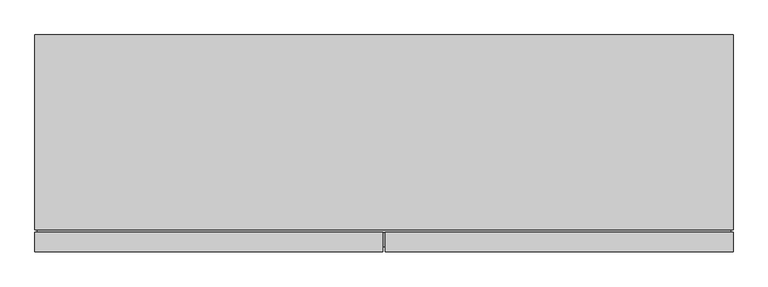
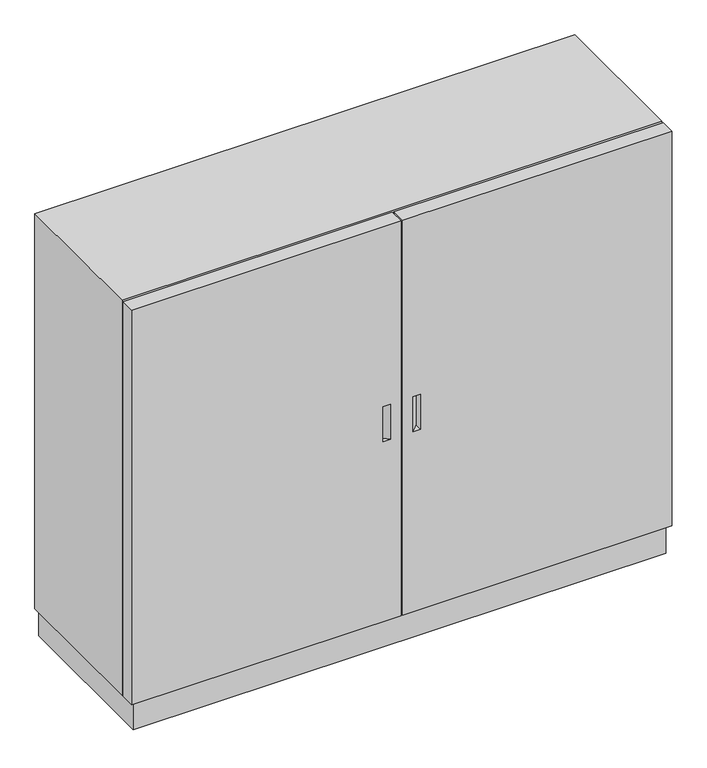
"""IFC4 building model written with IfcOpenShell, lengths in millimetres: proxy geometry, AI_Eqpmt elec_Armoire électrique LOD400 : TGBT 1200 x 450 x 1450."""

import ifcopenshell
import ifcopenshell.guid

model = None  # the IFC model being written
_history = None  # IfcOwnerHistory: only IFC2X3 demands one
_inside = {}  # id of a spatial element -> (the spatial element, [elements in it])
_under = {}  # id of a project, library or spatial element -> (it, [spatial elements below it])
_declared = {}  # id of a project -> (the project, [libraries it declares])
_typed = {}  # id of a type object -> (the type object, [elements of that type])
_made_of = {}  # id of a material, layer set ... -> (it, [elements and type objects made of it])


def new_model(schema):
    """Start an empty IFC model of exactly this schema.

    Asked for "IFC4X3", IfcOpenShell would pick the latest addendum, in which some entities
    have other attributes; the version numbers below select the first issue.
    IFC2X3 requires an IfcOwnerHistory on every rooted entity: one is made here for all.
    """
    global model, _history
    if schema == "IFC4X3":
        model = ifcopenshell.file(schema_version=(4, 3, 0, 0))
    else:
        model = ifcopenshell.file(schema=schema)
    _inside.clear()
    _under.clear()
    _declared.clear()
    _typed.clear()
    _made_of.clear()
    _history = None
    if model.schema == "IFC2X3":
        org = make("IfcOrganization", Name="unknown")
        user = make(
            "IfcPersonAndOrganization",
            ThePerson=make("IfcPerson", FamilyName="unknown"),
            TheOrganization=org,
        )
        app = make(
            "IfcApplication",
            ApplicationDeveloper=org,
            Version="unknown",
            ApplicationFullName="unknown",
            ApplicationIdentifier="unknown",
        )
        _history = make(
            "IfcOwnerHistory",
            OwningUser=user,
            OwningApplication=app,
            ChangeAction="ADDED",
            CreationDate=0,
        )
    return model


def make(cls, **values):
    """One entity of the class cls with the attributes given. An attribute that is None is left unset."""
    return model.create_entity(
        cls, **{name: value for name, value in values.items() if value is not None}
    )


def rooted(cls, **values):
    """An entity with a GlobalId (a new one), such as an element, a storey or a relation."""
    return make(cls, GlobalId=ifcopenshell.guid.new(), OwnerHistory=_history, **values)


def si_unit(unit_type, name, prefix=None):
    """IfcSIUnit, for example si_unit("LENGTHUNIT", "METRE", prefix="MILLI")."""
    return make("IfcSIUnit", UnitType=unit_type, Prefix=prefix, Name=name)


def assignment(units):
    """IfcUnitAssignment: the units of a project."""
    return None if units is None else make("IfcUnitAssignment", Units=units)


def point(xyz):
    """IfcCartesianPoint."""
    return None if xyz is None else make("IfcCartesianPoint", Coordinates=xyz)


def direction(xyz):
    """IfcDirection."""
    return None if xyz is None else make("IfcDirection", DirectionRatios=xyz)


def frame(location, z_axis=None, x_axis=None):
    """IfcAxis2Placement3D, a coordinate frame: its origin and axes. An axis left out is left unset."""
    return make(
        "IfcAxis2Placement3D",
        Location=point(location),
        Axis=direction(z_axis),
        RefDirection=direction(x_axis),
    )


def origin():
    """The frame at (0, 0, 0) with its axes left unset."""
    return frame((0.0, 0.0, 0.0))


def origin_with_axes():
    """The frame at (0, 0, 0) with the z axis (0, 0, 1) and the x axis (1, 0, 0) written out."""
    return frame((0.0, 0.0, 0.0), z_axis=(0.0, 0.0, 1.0), x_axis=(1.0, 0.0, 0.0))


def place(relative_to, where):
    """IfcLocalPlacement: puts the frame where relative to a parent placement (None: the world)."""
    return make(
        "IfcLocalPlacement", PlacementRelTo=relative_to, RelativePlacement=where
    )


def context(
    kind, dimensions, precision=None, world=None, true_north=None, identifier=None
):
    """IfcGeometricRepresentationContext, for example the 3D "Model" context."""
    return make(
        "IfcGeometricRepresentationContext",
        ContextIdentifier=identifier,
        ContextType=kind,
        CoordinateSpaceDimension=dimensions,
        Precision=precision,
        WorldCoordinateSystem=world,
        TrueNorth=true_north,
    )


def project(units=None, contexts=None):
    """IfcProject with its units and contexts."""
    return rooted(
        "IfcProject",
        Name="project",
        RepresentationContexts=contexts,
        UnitsInContext=assignment(units),
    )


def spatial(cls, under=None, at=None, **own):
    """A site, building, storey or space (cls), placed at a placement, below another one or the project."""
    s = rooted(cls, ObjectPlacement=at, **own)
    if under is not None:
        _under.setdefault(under.id(), (under, []))[1].append(s)
    return s


def polyline(points):
    """IfcPolyline through the points."""
    return make("IfcPolyline", Points=[point(p) for p in points])


def outline(outer, holes=None, kind="AREA"):
    """IfcArbitraryClosedProfileDef: a profile drawn as a closed curve; with holes, ...WithVoids."""
    if holes is None:
        return make("IfcArbitraryClosedProfileDef", ProfileType=kind, OuterCurve=outer)
    return make(
        "IfcArbitraryProfileDefWithVoids",
        ProfileType=kind,
        OuterCurve=outer,
        InnerCurves=holes,
    )


def extrude(swept, where, along, depth):
    """IfcExtrudedAreaSolid: the profile swept, set in the frame where, extruded along a direction by depth."""
    return make(
        "IfcExtrudedAreaSolid",
        SweptArea=swept,
        Position=where,
        ExtrudedDirection=direction(along),
        Depth=depth,
    )


def faces_of(points, faces, orient=None, outer=None):
    """IfcFace entities. A face is a list of loops; a loop is a list of indices into points, from 0.

    orient and outer hold one flag for each loop. By default every Orientation is true, the
    first loop of a face is its IfcFaceOuterBound and the others are IfcFaceBound.
    """
    made = []
    for i, loops in enumerate(faces):
        bounds = []
        for j, loop in enumerate(loops):
            is_outer = j == 0 if outer is None else outer[i][j]
            bounds.append(
                make(
                    "IfcFaceOuterBound" if is_outer else "IfcFaceBound",
                    Bound=make("IfcPolyLoop", Polygon=[points[k] for k in loop]),
                    Orientation=True if orient is None else orient[i][j],
                )
            )
        made.append(make("IfcFace", Bounds=bounds))
    return made


def faceted_brep(points, faces, orient=None, outer=None, voids=None):
    """IfcFacetedBrep: a solid bounded by flat faces; with voids (closed shells), ...WithVoids."""
    shared = [point(p) for p in points]
    hull = make("IfcClosedShell", CfsFaces=faces_of(shared, faces, orient, outer))
    if voids is None:
        return make("IfcFacetedBrep", Outer=hull)
    return make(
        "IfcFacetedBrepWithVoids",
        Outer=hull,
        Voids=[
            make(cls, CfsFaces=faces_of(shared, fs, o, b)) for cls, fs, o, b in voids
        ],
    )


def shape(context_of_items, identifier, shape_type, items):
    """IfcShapeRepresentation: the items that make up one representation, for example the "Body"."""
    return make(
        "IfcShapeRepresentation",
        ContextOfItems=context_of_items,
        RepresentationIdentifier=identifier,
        RepresentationType=shape_type,
        Items=items,
    )


def source(mapping_origin, context_of_items, identifier, shape_type, items):
    """IfcRepresentationMap: a shape defined once, which mapped items show again and again."""
    return make(
        "IfcRepresentationMap",
        MappingOrigin=mapping_origin,
        MappedRepresentation=shape(context_of_items, identifier, shape_type, items),
    )


def transform(
    local_origin,
    x_axis=None,
    y_axis=None,
    z_axis=None,
    scale=None,
    scale2=None,
    scale3=None,
    uniform=True,
):
    """IfcCartesianTransformationOperator3D, or its non-uniform kind. x_axis, y_axis, z_axis: its Axis1, 2, 3."""
    if uniform:
        return make(
            "IfcCartesianTransformationOperator3D",
            Axis1=direction(x_axis),
            Axis2=direction(y_axis),
            LocalOrigin=point(local_origin),
            Scale=scale,
            Axis3=direction(z_axis),
        )
    return make(
        "IfcCartesianTransformationOperator3DnonUniform",
        Axis1=direction(x_axis),
        Axis2=direction(y_axis),
        LocalOrigin=point(local_origin),
        Scale=scale,
        Axis3=direction(z_axis),
        Scale2=scale2,
        Scale3=scale3,
    )


def mapped(mapping_source, mapping_target):
    """IfcMappedItem: shows the shape of a source again, moved by a transform."""
    return make(
        "IfcMappedItem", MappingSource=mapping_source, MappingTarget=mapping_target
    )


def made_of(thing, what):
    """Note that an element or type object is made of a material, layer set ...; save() writes the relation."""
    if what is not None:
        _made_of.setdefault(what.id(), (what, []))[1].append(thing)
    return thing


def element(
    cls,
    number,
    at=None,
    inside=None,
    cuts=None,
    type_object=None,
    material=None,
    context=None,
    identifier="Body",
    shape_type=None,
    held_by="IfcProductDefinitionShape",
    body=None,
    shapes=None,
    **own,
):
    """One element of the class cls, such as IfcWall. Its Tag is "e" and its number.

    at: its placement. inside: the storey or other place that contains it. cuts: it is an
    opening in that element (IfcRelVoidsElement). A single representation is given by context,
    identifier, shape_type and body (its items); several are given by shapes. held_by: the class
    of the entity that holds the representations. save() writes the other relations.
    """
    e = rooted(cls, Tag="e%d" % number, ObjectPlacement=at, **own)
    if body is not None:
        shapes = [shape(context, identifier, shape_type, body)]
    if shapes is not None:
        e.Representation = make(held_by, Representations=shapes)
    if inside is not None:
        _inside.setdefault(inside.id(), (inside, []))[1].append(e)
    if cuts is not None:
        rooted(
            "IfcRelVoidsElement", RelatingBuildingElement=cuts, RelatedOpeningElement=e
        )
    if type_object is not None:
        _typed.setdefault(type_object.id(), (type_object, []))[1].append(e)
    return made_of(e, material)


def aggregate(whole, parts):
    """IfcRelAggregates: a whole, such as a stair, and the parts it consists of."""
    return rooted("IfcRelAggregates", RelatingObject=whole, RelatedObjects=parts)


def save(model, path):
    """Write the relations noted so far, then the file.

    IfcRelAggregates (storeys below a building ...), IfcRelContainedInSpatialStructure (elements
    in a storey), IfcRelDefinesByType, IfcRelAssociatesMaterial and IfcRelDeclares: one each for
    every whole, place, type object, material and project.
    """
    for whole, parts in _under.values():
        aggregate(whole, parts)
    for where, things in _inside.values():
        rooted(
            "IfcRelContainedInSpatialStructure",
            RelatedElements=things,
            RelatingStructure=where,
        )
    for kind, things in _typed.values():
        rooted("IfcRelDefinesByType", RelatedObjects=things, RelatingType=kind)
    for what, things in _made_of.values():
        rooted("IfcRelAssociatesMaterial", RelatedObjects=things, RelatingMaterial=what)
    for by, libraries in _declared.values():
        rooted("IfcRelDeclares", RelatingContext=by, RelatedDefinitions=libraries)
    model.write(path)


def electrical_equipment_138fd20d(model_context):
    return source(origin(), model_context, "Body", "SolidModel", [
        extrude(outline(polyline([(715.0, 0.0), (715.0, -440.0), (-715.0, -440.0), (-715.0, 0.0), (715.0, 0.0)])), origin_with_axes(), (0.0, 0.0, 1.0), 80.0),
        faceted_brep([(725.0, 0.0, 1200.0), (-725.0, 0.0, 1200.0), (-725.0, -405.0, 1200.0), (725.0, -405.0, 1200.0), (-725.0, -450.0, 1200.0), (-2.5, -450.0, 1200.0), (-2.5, -410.0, 1200.0), (-725.0, -410.0, 1200.0), (2.5, -450.0, 1200.0), (725.0, -450.0, 1200.0), (725.0, -410.0, 1200.0), (2.5, -410.0, 1200.0), (-725.0, 0.0, 80.0), (725.0, 0.0, 80.0), (725.0, -405.0, 80.0), (-725.0, -405.0, 80.0), (-2.5, -450.0, 80.0), (-725.0, -450.0, 80.0), (-725.0, -410.0, 80.0), (-2.5, -410.0, 80.0), (725.0, -450.0, 80.0), (2.5, -450.0, 80.0), (2.5, -410.0, 80.0), (725.0, -410.0, 80.0), (-50.0, -450.0, 690.0), (-30.0, -450.0, 690.0), (-30.0, -450.0, 590.0), (-50.0, -450.0, 590.0), (30.0, -450.0, 690.0), (50.0, -450.0, 690.0), (50.0, -450.0, 590.0), (30.0, -450.0, 590.0), (-2.5, -410.0, 1195.0), (-2.5, -410.0, 85.0), (2.5, -410.0, 85.0), (2.5, -410.0, 1195.0), (720.0, -410.0, 85.0), (720.0, -410.0, 1195.0), (-720.0, -410.0, 1195.0), (-720.0, -410.0, 85.0), (-720.0, -405.0, 85.0), (-720.0, -405.0, 1195.0), (720.0, -405.0, 1195.0), (720.0, -405.0, 85.0), (-50.0, -430.0, 690.0), (50.0, -430.0, 690.0), (-50.0, -430.0, 590.0), (50.0, -430.0, 590.0)], [[[0, 1, 2, 3]], [[4, 5, 6, 7]], [[8, 9, 10, 11]], [[12, 13, 14, 15]], [[16, 17, 18, 19]], [[20, 21, 22, 23]], [[1, 0, 13, 12]], [[1, 12, 15, 2]], [[17, 4, 7, 18]], [[4, 17, 16, 5], [24, 25, 26, 27]], [[20, 9, 8, 21], [28, 29, 30, 31]], [[13, 0, 3, 14]], [[9, 20, 23, 10]], [[32, 33, 34, 35]], [[6, 5, 16, 19, 33, 32]], [[8, 11, 35, 34, 22, 21]], [[36, 37, 35, 11, 10, 23, 22, 34]], [[38, 39, 33, 19, 18, 7, 6, 32]], [[3, 2, 15, 14], [40, 41, 42, 43]], [[39, 38, 41, 40]], [[42, 41, 38, 32, 35, 37]], [[37, 36, 43, 42]], [[40, 43, 36, 34, 33, 39]], [[24, 44, 25]], [[45, 29, 28]], [[26, 46, 27]], [[47, 31, 30]], [[25, 44, 46, 26]], [[44, 24, 27, 46]], [[45, 28, 31, 47]], [[29, 45, 47, 30]]]),
    ])


if __name__ == "__main__":
    model = new_model("IFC4")
    model_context = context("Model", 3, world=origin())
    ifc_project = project(units=[si_unit("LENGTHUNIT", "METRE", prefix="MILLI")], contexts=[model_context])
    site = spatial("IfcSite", under=ifc_project)
    building = spatial("IfcBuilding", under=site)
    placement = place(None, origin())
    electrical_equipment_shape = electrical_equipment_138fd20d(model_context)
    element("IfcBuildingElementProxy", 1, Name="AI_Eqpmt elec_Armoire électrique LOD400 : TGBT 1200 x 450 x 1450", ObjectType="AI_Eqpmt elec_Armoire électrique LOD400 : TGBT 1200 x 450 x 1450", at=placement, inside=building, context=model_context, shape_type="MappedRepresentation", body=[
        mapped(electrical_equipment_shape, transform((0.0, 0.0, 0.0), x_axis=(1.0, 0.0, 0.0), y_axis=(0.0, 1.0, 0.0), z_axis=(0.0, 0.0, 1.0))),
    ])
    save(model, "model.ifc")
